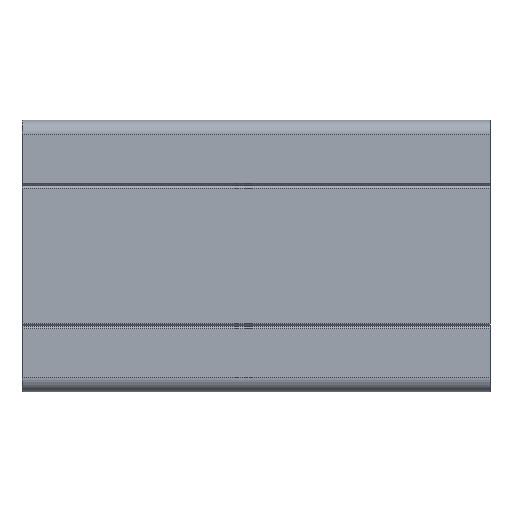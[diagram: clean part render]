
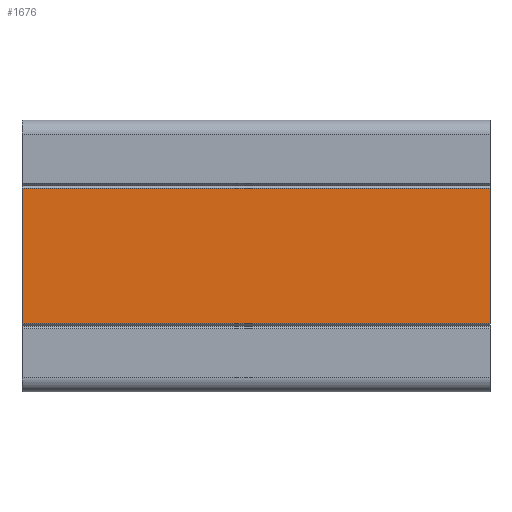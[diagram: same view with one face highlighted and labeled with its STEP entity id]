
A CAD part, front view. The second image highlights one B-rep face of the part: STEP entity #1676.
In plain terms, the highlighted planar face has unit normal (0, -1, 0).
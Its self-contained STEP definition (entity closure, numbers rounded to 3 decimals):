
#26 = VECTOR ( 'NONE', #469, 1000. ) ;
#37 = DIRECTION ( 'NONE',  ( -1., 0., 0. ) ) ;
#274 = EDGE_CURVE ( 'NONE', #3201, #827, #761, .T. ) ;
#304 = CARTESIAN_POINT ( 'NONE',  ( 100., 0., -14.5 ) ) ;
#347 = DIRECTION ( 'NONE',  ( 0., 1., 0. ) ) ;
#387 = FACE_OUTER_BOUND ( 'NONE', #917, .T. ) ;
#469 = DIRECTION ( 'NONE',  ( -1., 0., 0. ) ) ;
#698 = DIRECTION ( 'NONE',  ( 0., 0., 1. ) ) ;
#761 = LINE ( 'NONE', #1583, #26 ) ;
#827 = VERTEX_POINT ( 'NONE', #1849 ) ;
#917 = EDGE_LOOP ( 'NONE', ( #1656, #2499, #2496, #2109 ) ) ;
#1092 = CARTESIAN_POINT ( 'NONE',  ( 100., 0., 14.5 ) ) ;
#1176 = PLANE ( 'NONE',  #2314 ) ;
#1249 = CARTESIAN_POINT ( 'NONE',  ( 0., 0., -14.5 ) ) ;
#1392 = VECTOR ( 'NONE', #2725, 1000. ) ;
#1583 = CARTESIAN_POINT ( 'NONE',  ( 100., 0., 14.5 ) ) ;
#1615 = LINE ( 'NONE', #304, #2221 ) ;
#1656 = ORIENTED_EDGE ( 'NONE', *, *, #2544, .T. ) ;
#1676 = ADVANCED_FACE ( 'NONE', ( #387 ), #1176, .F. ) ;
#1737 = CARTESIAN_POINT ( 'NONE',  ( 100., 0., -14.5 ) ) ;
#1849 = CARTESIAN_POINT ( 'NONE',  ( 0., 0., 14.5 ) ) ;
#1947 = EDGE_CURVE ( 'NONE', #2044, #2576, #1615, .T. ) ;
#2006 = VECTOR ( 'NONE', #3336, 1000. ) ;
#2044 = VERTEX_POINT ( 'NONE', #3028 ) ;
#2086 = LINE ( 'NONE', #1249, #2006 ) ;
#2109 = ORIENTED_EDGE ( 'NONE', *, *, #274, .T. ) ;
#2221 = VECTOR ( 'NONE', #37, 1000. ) ;
#2314 = AXIS2_PLACEMENT_3D ( 'NONE', #1737, #347, #698 ) ;
#2469 = CARTESIAN_POINT ( 'NONE',  ( 100., 0., -14.5 ) ) ;
#2496 = ORIENTED_EDGE ( 'NONE', *, *, #2978, .F. ) ;
#2499 = ORIENTED_EDGE ( 'NONE', *, *, #1947, .F. ) ;
#2544 = EDGE_CURVE ( 'NONE', #827, #2576, #2086, .T. ) ;
#2576 = VERTEX_POINT ( 'NONE', #2833 ) ;
#2725 = DIRECTION ( 'NONE',  ( 0., 0., -1. ) ) ;
#2774 = LINE ( 'NONE', #2469, #1392 ) ;
#2833 = CARTESIAN_POINT ( 'NONE',  ( 0., 0., -14.5 ) ) ;
#2978 = EDGE_CURVE ( 'NONE', #3201, #2044, #2774, .T. ) ;
#3028 = CARTESIAN_POINT ( 'NONE',  ( 100., 0., -14.5 ) ) ;
#3201 = VERTEX_POINT ( 'NONE', #1092 ) ;
#3336 = DIRECTION ( 'NONE',  ( 0., 0., -1. ) ) ;
